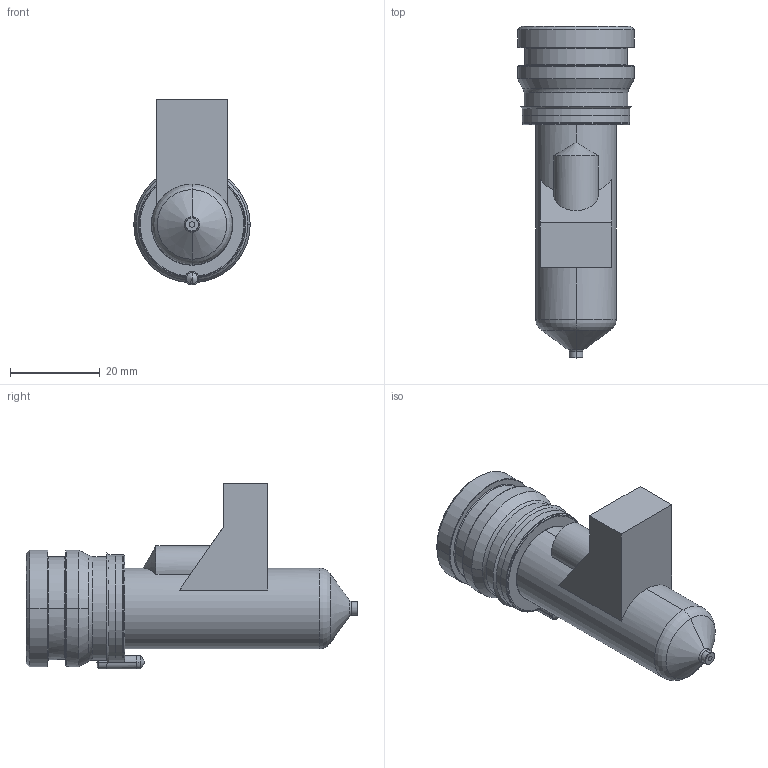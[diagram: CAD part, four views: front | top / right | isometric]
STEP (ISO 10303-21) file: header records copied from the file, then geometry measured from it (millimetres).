
FILE_DESCRIPTION((''),'2;1');
FILE_NAME('MPN-08-24-VP3-056-M','2026-02-05T13:32:15',('UPTIO'),('Thermoplay S.p.A.'),'CREO PARAMETRIC BY PTC INC, 2023494','CREO PARAMETRIC BY PTC INC, 2023494','');
FILE_SCHEMA(('CONFIG_CONTROL_DESIGN','SHAPE_APPEARANCE_LAYERS_GROUPS'));
Length unit declared in the file: millimetre
Products named in the file (1): MPN-08-24-VP3-056-M
Bounding box: 26 x 74.1 x 41.5 mm (x, y, z)
Volume: 16024.5 mm3; surface area: 20368.7 mm2
Topology: 2 solids, 3 shells, 571 faces, 1494 edges, 922 vertices
Faces by surface type: cylinder 178, plane 143, bspline 103, torus 68, cone 66, sphere 7, extrusion 6
Entity records: 31133 total; most frequent: CARTESIAN_POINT 14623, ORIENTED_EDGE 2970, DIRECTION 2631, EDGE_CURVE 1485, AXIS2_PLACEMENT_3D 1029, VERTEX_POINT 922, EDGE_LOOP 601, VECTOR 573
